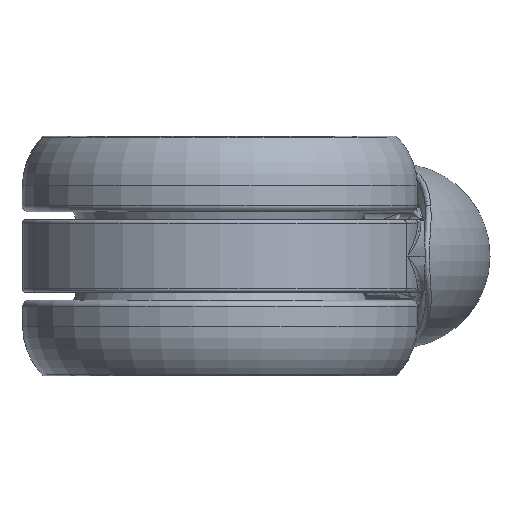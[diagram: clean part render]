
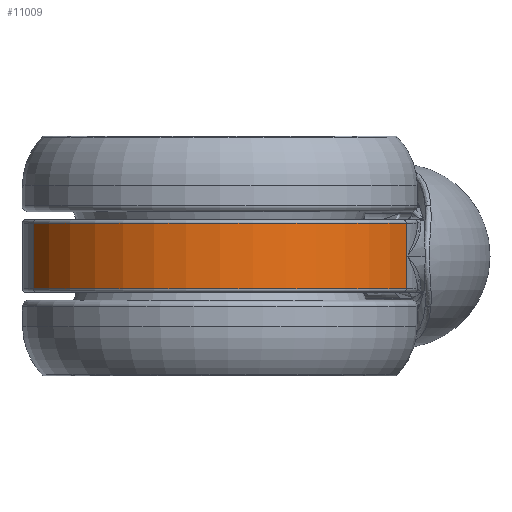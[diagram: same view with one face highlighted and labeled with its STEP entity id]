
A CAD part, front view. The second image highlights one B-rep face of the part: STEP entity #11009.
In plain terms, the highlighted cylindrical face has radius 30.924 mm (diameter 61.847 mm), a partial arc.
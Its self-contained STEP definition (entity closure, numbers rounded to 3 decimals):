
#1387 = DIRECTION ( 'NONE',  ( 0., 0., -1. ) ) ;
#1695 = EDGE_LOOP ( 'NONE', ( #8130, #19583, #10255, #8868 ) ) ;
#3323 = DIRECTION ( 'NONE',  ( 1., 0., 0. ) ) ;
#4640 = CARTESIAN_POINT ( 'NONE',  ( 28.273, -8.602, 5. ) ) ;
#4645 = CARTESIAN_POINT ( 'NONE',  ( -28.273, -8.602, 12.5 ) ) ;
#5193 = EDGE_CURVE ( 'NONE', #24475, #25643, #11772, .T. ) ;
#5841 = AXIS2_PLACEMENT_3D ( 'NONE', #18844, #22751, #18459 ) ;
#6110 = VECTOR ( 'NONE', #15817, 1000. ) ;
#8130 = ORIENTED_EDGE ( 'NONE', *, *, #12634, .T. ) ;
#8522 = VERTEX_POINT ( 'NONE', #23194 ) ;
#8800 = CYLINDRICAL_SURFACE ( 'NONE', #5841, 30.924 ) ;
#8868 = ORIENTED_EDGE ( 'NONE', *, *, #23544, .T. ) ;
#10091 = VECTOR ( 'NONE', #11160, 1000. ) ;
#10255 = ORIENTED_EDGE ( 'NONE', *, *, #5193, .T. ) ;
#11009 = ADVANCED_FACE ( 'NONE', ( #22357 ), #8800, .T. ) ;
#11160 = DIRECTION ( 'NONE',  ( 0., 0., -1. ) ) ;
#11407 = CARTESIAN_POINT ( 'NONE',  ( 0., 3.924, -5. ) ) ;
#11772 = LINE ( 'NONE', #18030, #6110 ) ;
#12634 = EDGE_CURVE ( 'NONE', #8522, #13030, #22501, .T. ) ;
#13030 = VERTEX_POINT ( 'NONE', #22465 ) ;
#13351 = DIRECTION ( 'NONE',  ( 0., 0., 1. ) ) ;
#13611 = DIRECTION ( 'NONE',  ( -1., 0., 0. ) ) ;
#14781 = CARTESIAN_POINT ( 'NONE',  ( 28.273, -8.602, -5. ) ) ;
#15817 = DIRECTION ( 'NONE',  ( 0., 0., 1. ) ) ;
#17052 = EDGE_CURVE ( 'NONE', #13030, #24475, #17503, .T. ) ;
#17097 = AXIS2_PLACEMENT_3D ( 'NONE', #11407, #13351, #13611 ) ;
#17401 = CARTESIAN_POINT ( 'NONE',  ( 0., 3.924, 5. ) ) ;
#17503 = CIRCLE ( 'NONE', #17097, 30.924 ) ;
#18030 = CARTESIAN_POINT ( 'NONE',  ( 28.273, -8.602, 12.5 ) ) ;
#18459 = DIRECTION ( 'NONE',  ( -1., 0., 0. ) ) ;
#18814 = CIRCLE ( 'NONE', #22537, 30.924 ) ;
#18844 = CARTESIAN_POINT ( 'NONE',  ( 0., 3.924, 12.5 ) ) ;
#19583 = ORIENTED_EDGE ( 'NONE', *, *, #17052, .T. ) ;
#22357 = FACE_OUTER_BOUND ( 'NONE', #1695, .T. ) ;
#22465 = CARTESIAN_POINT ( 'NONE',  ( -28.273, -8.602, -5. ) ) ;
#22501 = LINE ( 'NONE', #4645, #10091 ) ;
#22537 = AXIS2_PLACEMENT_3D ( 'NONE', #17401, #1387, #3323 ) ;
#22751 = DIRECTION ( 'NONE',  ( 0., 0., -1. ) ) ;
#23194 = CARTESIAN_POINT ( 'NONE',  ( -28.273, -8.602, 5. ) ) ;
#23544 = EDGE_CURVE ( 'NONE', #25643, #8522, #18814, .T. ) ;
#24475 = VERTEX_POINT ( 'NONE', #14781 ) ;
#25643 = VERTEX_POINT ( 'NONE', #4640 ) ;
